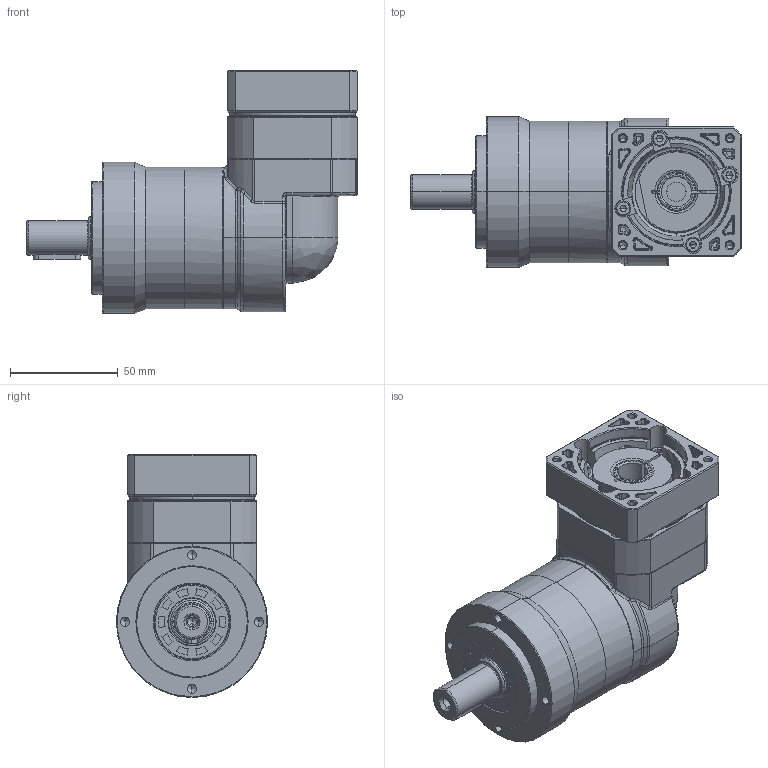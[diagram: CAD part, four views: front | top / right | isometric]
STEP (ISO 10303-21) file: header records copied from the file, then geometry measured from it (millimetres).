
FILE_DESCRIPTION (( 'STEP AP214' ), '1' );
FILE_NAME ('VRL070-L1-S2-P1 14-50-70-M4-33.STEP', '2025-02-14T06:57:42', ( '微软用户' ), ( '微软中国' ), 'SwSTEP 2.0', 'SolidWorks 2021', '' );
FILE_SCHEMA (( 'AUTOMOTIVE_DESIGN' ));
Length unit declared in the file: millimetre
Products named in the file (4): 3.EVT064F眻褒眊极_step_stp_stp.stp; EVT060D-L2-8-38.1-66.7-M4-33; VRL070D-L1-S2-14-50-70-M4-33; VRL070-L1-S2-P1 14-50-70-M4-33
Assembly tree (7 placements, depth 2):
  VRL070-L1-S2-P1 14-50-70-M4-33
    VRL070D-L1-S2-14-50-70-M4-33
    3.EVT064F眻褒眊极_step_stp_stp.stp
    EVT060D-L2-8-38.1-66.7-M4-33  x5
Bounding box: 153 x 70 x 112.5 mm (x, y, z)
Volume: 417536.4 mm3; surface area: 112681.2 mm2
Topology: 17 solids, 27 shells, 1418 faces, 3533 edges, 2182 vertices
Faces by surface type: cylinder 431, plane 382, bspline 322, cone 251, torus 32
Entity records: 59631 total; most frequent: CARTESIAN_POINT 31386, ORIENTED_EDGE 6256, DIRECTION 5192, EDGE_CURVE 3132, AXIS2_PLACEMENT_3D 2075, VERTEX_POINT 1970, EDGE_LOOP 1435, FACE_OUTER_BOUND 1290
